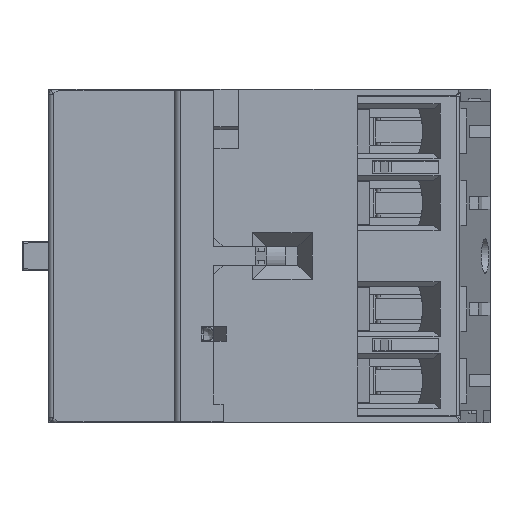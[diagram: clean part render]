
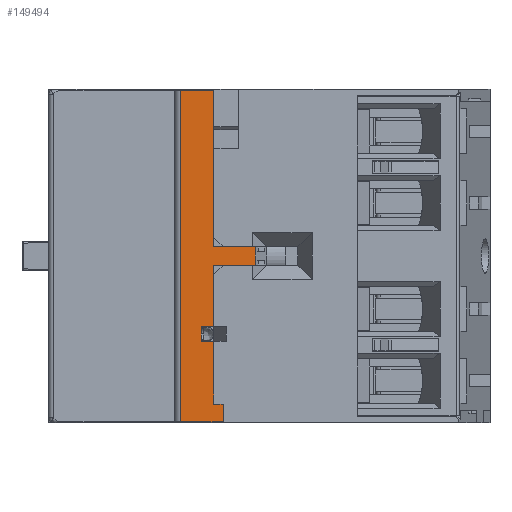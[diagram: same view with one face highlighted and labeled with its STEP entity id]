
A CAD part, left-side view. The second image highlights one B-rep face of the part: STEP entity #149494.
In plain terms, the highlighted planar face has unit normal (-1, 0, 0).
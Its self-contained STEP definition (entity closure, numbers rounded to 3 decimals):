
#2443 = CARTESIAN_POINT ( 'NONE',  ( -45., -1.5, -23.75 ) ) ;
#2564 = FACE_OUTER_BOUND ( 'NONE', #149497, .T. ) ;
#2628 = DIRECTION ( 'NONE',  ( 0., 0., 1. ) ) ;
#2629 = DIRECTION ( 'NONE',  ( -1., 0., 0. ) ) ;
#2631 = CARTESIAN_POINT ( 'NONE',  ( -45., 6.3, -26.75 ) ) ;
#2632 = AXIS2_PLACEMENT_3D ( 'NONE', #2631, #2629, #2628 ) ;
#2640 = PLANE ( 'NONE',  #2632 ) ;
#2787 = DIRECTION ( 'NONE',  ( 0., 0., -1. ) ) ;
#2789 = VECTOR ( 'NONE', #2787, 1000. ) ;
#2790 = CARTESIAN_POINT ( 'NONE',  ( -45., 0., -26.75 ) ) ;
#2792 = LINE ( 'NONE', #2790, #2789 ) ;
#2840 = DIRECTION ( 'NONE',  ( 0., -1., 0. ) ) ;
#2841 = VECTOR ( 'NONE', #2840, 1000. ) ;
#2842 = CARTESIAN_POINT ( 'NONE',  ( -45., 5.3, 26.55 ) ) ;
#2843 = LINE ( 'NONE', #2842, #2841 ) ;
#2853 = CARTESIAN_POINT ( 'NONE',  ( -45., 0., 26.55 ) ) ;
#2888 = DIRECTION ( 'NONE',  ( 0., 1., 0. ) ) ;
#2889 = VECTOR ( 'NONE', #2888, 1000. ) ;
#2891 = CARTESIAN_POINT ( 'NONE',  ( -45., 5.3, -26.55 ) ) ;
#2894 = LINE ( 'NONE', #2891, #2889 ) ;
#2989 = DIRECTION ( 'NONE',  ( 0., 1., 0. ) ) ;
#2990 = VECTOR ( 'NONE', #2989, 1000. ) ;
#2991 = CARTESIAN_POINT ( 'NONE',  ( -45., 6.3, -23.75 ) ) ;
#2992 = LINE ( 'NONE', #2991, #2990 ) ;
#2997 = CARTESIAN_POINT ( 'NONE',  ( -45., -1.5, -26.55 ) ) ;
#3429 = DIRECTION ( 'NONE',  ( 0., 0., -1. ) ) ;
#3430 = VECTOR ( 'NONE', #3429, 1000. ) ;
#3432 = CARTESIAN_POINT ( 'NONE',  ( -45., -1.5, -26.75 ) ) ;
#3434 = LINE ( 'NONE', #3432, #3430 ) ;
#84217 = VERTEX_POINT ( 'NONE', #146114 ) ;
#84234 = EDGE_CURVE ( 'NONE', #84235, #84217, #146145, .T. ) ;
#84235 = VERTEX_POINT ( 'NONE', #146141 ) ;
#84304 = EDGE_CURVE ( 'NONE', #84217, #84446, #146258, .T. ) ;
#84344 = VERTEX_POINT ( 'NONE', #146341 ) ;
#84354 = EDGE_CURVE ( 'NONE', #84446, #84344, #146335, .T. ) ;
#84446 = VERTEX_POINT ( 'NONE', #146516 ) ;
#84470 = VERTEX_POINT ( 'NONE', #146500 ) ;
#84478 = EDGE_CURVE ( 'NONE', #84344, #84470, #146533, .T. ) ;
#84539 = VERTEX_POINT ( 'NONE', #146636 ) ;
#84548 = EDGE_CURVE ( 'NONE', #84470, #84539, #146673, .T. ) ;
#84616 = VERTEX_POINT ( 'NONE', #146826 ) ;
#84623 = EDGE_CURVE ( 'NONE', #84539, #84616, #146821, .T. ) ;
#84702 = EDGE_CURVE ( 'NONE', #84616, #84704, #146963, .T. ) ;
#84704 = VERTEX_POINT ( 'NONE', #146959 ) ;
#84783 = EDGE_CURVE ( 'NONE', #84788, #84235, #147135, .T. ) ;
#84788 = VERTEX_POINT ( 'NONE', #147116 ) ;
#146114 = CARTESIAN_POINT ( 'NONE',  ( -45., 2., -13.7 ) ) ;
#146141 = CARTESIAN_POINT ( 'NONE',  ( -45., 0., -13.7 ) ) ;
#146142 = DIRECTION ( 'NONE',  ( 0., 1., 0. ) ) ;
#146143 = VECTOR ( 'NONE', #146142, 1000. ) ;
#146144 = CARTESIAN_POINT ( 'NONE',  ( -45., 6.3, -13.7 ) ) ;
#146145 = LINE ( 'NONE', #146144, #146143 ) ;
#146255 = DIRECTION ( 'NONE',  ( 0., 0., 1. ) ) ;
#146256 = VECTOR ( 'NONE', #146255, 1000. ) ;
#146257 = CARTESIAN_POINT ( 'NONE',  ( -45., 2., -26.75 ) ) ;
#146258 = LINE ( 'NONE', #146257, #146256 ) ;
#146332 = DIRECTION ( 'NONE',  ( 0., -1., 0. ) ) ;
#146333 = VECTOR ( 'NONE', #146332, 1000. ) ;
#146334 = CARTESIAN_POINT ( 'NONE',  ( -45., 6.3, -11.3 ) ) ;
#146335 = LINE ( 'NONE', #146334, #146333 ) ;
#146341 = CARTESIAN_POINT ( 'NONE',  ( -45., 0., -11.3 ) ) ;
#146500 = CARTESIAN_POINT ( 'NONE',  ( -45., 0., -1.45 ) ) ;
#146516 = CARTESIAN_POINT ( 'NONE',  ( -45., 2., -11.3 ) ) ;
#146530 = DIRECTION ( 'NONE',  ( 0., 0., 1. ) ) ;
#146531 = VECTOR ( 'NONE', #146530, 1000. ) ;
#146532 = CARTESIAN_POINT ( 'NONE',  ( -45., 0., -26.75 ) ) ;
#146533 = LINE ( 'NONE', #146532, #146531 ) ;
#146636 = CARTESIAN_POINT ( 'NONE',  ( -45., -6.635, -1.45 ) ) ;
#146670 = DIRECTION ( 'NONE',  ( 0., -1., 0. ) ) ;
#146671 = VECTOR ( 'NONE', #146670, 1000. ) ;
#146672 = CARTESIAN_POINT ( 'NONE',  ( -45., 6.3, -1.45 ) ) ;
#146673 = LINE ( 'NONE', #146672, #146671 ) ;
#146818 = DIRECTION ( 'NONE',  ( 0., 0., 1. ) ) ;
#146819 = VECTOR ( 'NONE', #146818, 1000. ) ;
#146820 = CARTESIAN_POINT ( 'NONE',  ( -45., -6.635, -26.75 ) ) ;
#146821 = LINE ( 'NONE', #146820, #146819 ) ;
#146826 = CARTESIAN_POINT ( 'NONE',  ( -45., -6.635, 1.45 ) ) ;
#146959 = CARTESIAN_POINT ( 'NONE',  ( -45., 0., 1.45 ) ) ;
#146960 = DIRECTION ( 'NONE',  ( 0., 1., 0. ) ) ;
#146961 = VECTOR ( 'NONE', #146960, 1000. ) ;
#146962 = CARTESIAN_POINT ( 'NONE',  ( -45., 6.3, 1.45 ) ) ;
#146963 = LINE ( 'NONE', #146962, #146961 ) ;
#147116 = CARTESIAN_POINT ( 'NONE',  ( -45., 0., -23.75 ) ) ;
#147130 = DIRECTION ( 'NONE',  ( 0., 0., 1. ) ) ;
#147132 = VECTOR ( 'NONE', #147130, 1000. ) ;
#147133 = CARTESIAN_POINT ( 'NONE',  ( -45., 0., -26.75 ) ) ;
#147135 = LINE ( 'NONE', #147133, #147132 ) ;
#147298 = EDGE_CURVE ( 'NONE', #147303, #147429, #165618, .T. ) ;
#147303 = VERTEX_POINT ( 'NONE', #165610 ) ;
#147429 = VERTEX_POINT ( 'NONE', #165781 ) ;
#149472 = VERTEX_POINT ( 'NONE', #2443 ) ;
#149494 = ADVANCED_FACE ( 'NONE', ( #2564 ), #2640, .T. ) ;
#149497 = EDGE_LOOP ( 'NONE', ( #149500, #149505, #149509, #149515, #149530, #149534, #149697, #149558, #149564, #149567, #149578, #149590, #149595, #149612 ) ) ;
#149500 = ORIENTED_EDGE ( 'NONE', *, *, #149618, .T. ) ;
#149505 = ORIENTED_EDGE ( 'NONE', *, *, #84783, .T. ) ;
#149509 = ORIENTED_EDGE ( 'NONE', *, *, #84234, .T. ) ;
#149515 = ORIENTED_EDGE ( 'NONE', *, *, #84304, .T. ) ;
#149530 = ORIENTED_EDGE ( 'NONE', *, *, #84354, .T. ) ;
#149534 = ORIENTED_EDGE ( 'NONE', *, *, #84478, .T. ) ;
#149558 = ORIENTED_EDGE ( 'NONE', *, *, #84623, .T. ) ;
#149564 = ORIENTED_EDGE ( 'NONE', *, *, #84702, .T. ) ;
#149567 = ORIENTED_EDGE ( 'NONE', *, *, #149571, .F. ) ;
#149571 = EDGE_CURVE ( 'NONE', #149573, #84704, #2792, .T. ) ;
#149573 = VERTEX_POINT ( 'NONE', #2853 ) ;
#149578 = ORIENTED_EDGE ( 'NONE', *, *, #149582, .F. ) ;
#149582 = EDGE_CURVE ( 'NONE', #147303, #149573, #2843, .T. ) ;
#149590 = ORIENTED_EDGE ( 'NONE', *, *, #147298, .T. ) ;
#149595 = ORIENTED_EDGE ( 'NONE', *, *, #149603, .F. ) ;
#149603 = EDGE_CURVE ( 'NONE', #149610, #147429, #2894, .T. ) ;
#149610 = VERTEX_POINT ( 'NONE', #2997 ) ;
#149612 = ORIENTED_EDGE ( 'NONE', *, *, #149766, .F. ) ;
#149618 = EDGE_CURVE ( 'NONE', #149472, #84788, #2992, .T. ) ;
#149697 = ORIENTED_EDGE ( 'NONE', *, *, #84548, .T. ) ;
#149766 = EDGE_CURVE ( 'NONE', #149472, #149610, #3434, .T. ) ;
#165610 = CARTESIAN_POINT ( 'NONE',  ( -45., 5.3, 26.55 ) ) ;
#165615 = DIRECTION ( 'NONE',  ( 0., 0., -1. ) ) ;
#165616 = VECTOR ( 'NONE', #165615, 1000. ) ;
#165617 = CARTESIAN_POINT ( 'NONE',  ( -45., 5.3, -26.75 ) ) ;
#165618 = LINE ( 'NONE', #165617, #165616 ) ;
#165781 = CARTESIAN_POINT ( 'NONE',  ( -45., 5.3, -26.55 ) ) ;
